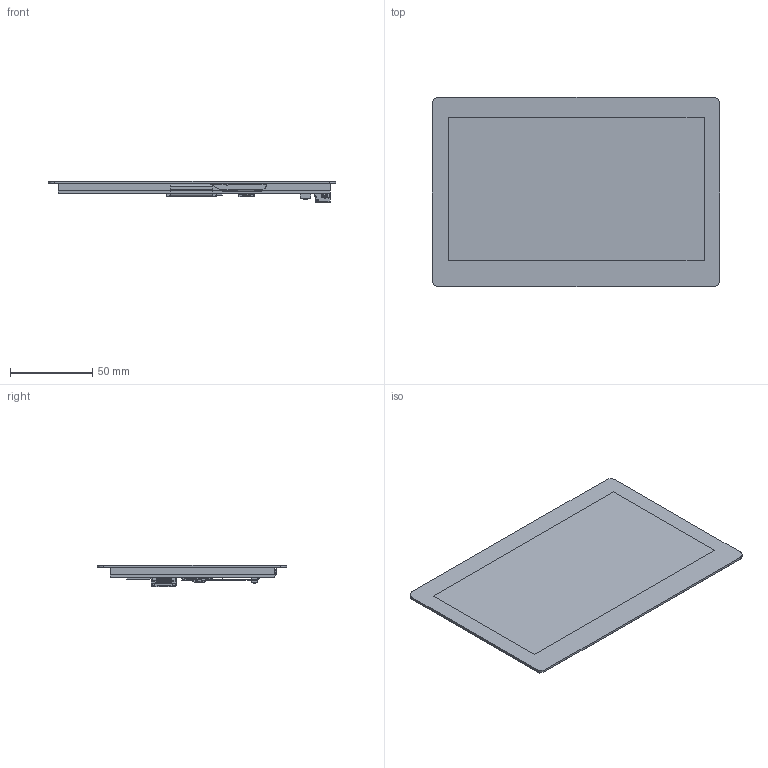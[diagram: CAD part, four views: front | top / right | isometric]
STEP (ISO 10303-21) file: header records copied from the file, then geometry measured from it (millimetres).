
FILE_DESCRIPTION (( 'STEP AP203' ), '1' );
FILE_NAME ('139D10050-7.0_inch_CTP_module.STEP', '2018-07-12T08:55:22', ( 'Windows User' ), ( '' ), 'SwSTEP 2.0', 'SolidWorks 2015', '' );
FILE_SCHEMA (( 'CONFIG_CONTROL_DESIGN' ));
Length unit declared in the file: millimetre
Products named in the file (11): LCD; Lcd cable; 139D10050-7.0_inch_CTP_module; Cable 2; Touch Panel; 7.0-PCB; micro_usb_47346-0001; MOLEX_527450733; PQFN50P800X800X100-56N; hdmi_socket; MOLEX_541045033
Assembly tree (10 placements, depth 2):
  139D10050-7.0_inch_CTP_module
    LCD
    Lcd cable
    7.0-PCB
    Touch Panel
    Cable 2
    MOLEX_527450733
    MOLEX_541045033
    hdmi_socket
    micro_usb_47346-0001
    PQFN50P800X800X100-56N
Bounding box: 174.5 x 115 x 13.05 mm (x, y, z)
Volume: 125462.4 mm3; surface area: 125232.5 mm2
Topology: 32 solids, 32 shells, 4876 faces, 14705 edges, 9664 vertices
Faces by surface type: plane 3994, cylinder 860, cone 10, bspline 8, sphere 4
Entity records: 165055 total; most frequent: CARTESIAN_POINT 30414, ORIENTED_EDGE 29402, DIRECTION 25972, EDGE_CURVE 14701, VECTOR 12828, LINE 12828, VERTEX_POINT 9664, AXIS2_PLACEMENT_3D 6572
